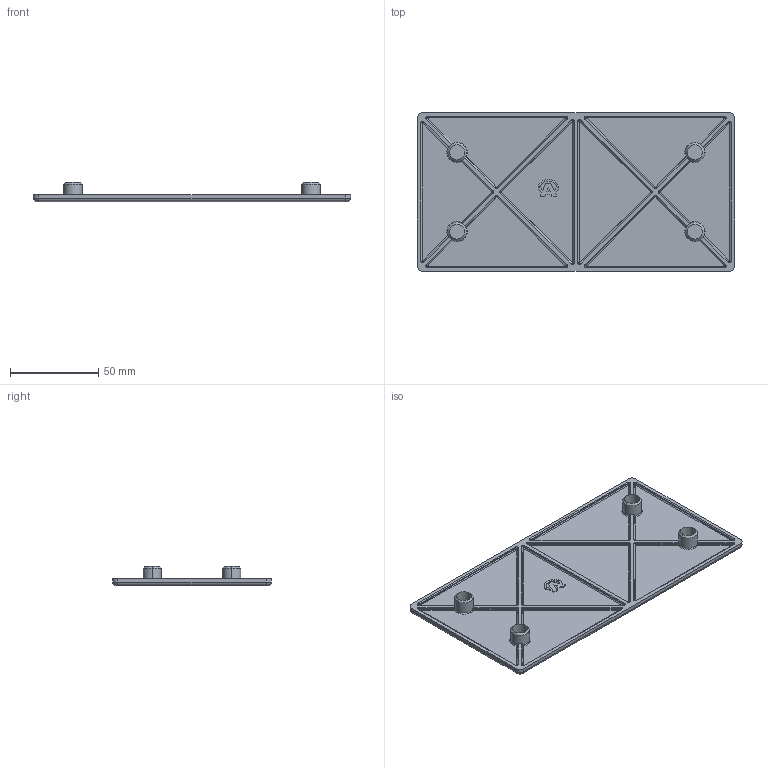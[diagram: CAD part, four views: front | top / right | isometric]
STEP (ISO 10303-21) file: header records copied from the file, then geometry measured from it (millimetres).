
FILE_DESCRIPTION (( 'STEP AP214' ), '1' );
FILE_NAME ('084.201.074.STEP', '2021-02-05T10:16:50', ( '' ), ( '' ), 'SwSTEP 2.0', 'SolidWorks 2018', '' );
FILE_SCHEMA (( 'AUTOMOTIVE_DESIGN' ));
Length unit declared in the file: millimetre
Products named in the file (1): 084.201.074
Bounding box: 180 x 90 x 11 mm (x, y, z)
Volume: 45881.4 mm3; surface area: 37294.6 mm2
Topology: 1 solids, 1 shells, 291 faces, 696 edges, 394 vertices
Faces by surface type: cylinder 125, plane 82, torus 46, sphere 30, cone 8
Entity records: 8220 total; most frequent: CARTESIAN_POINT 1530, DIRECTION 1512, ORIENTED_EDGE 1328, EDGE_CURVE 664, AXIS2_PLACEMENT_3D 588, VERTEX_POINT 382, LINE 336, VECTOR 336
